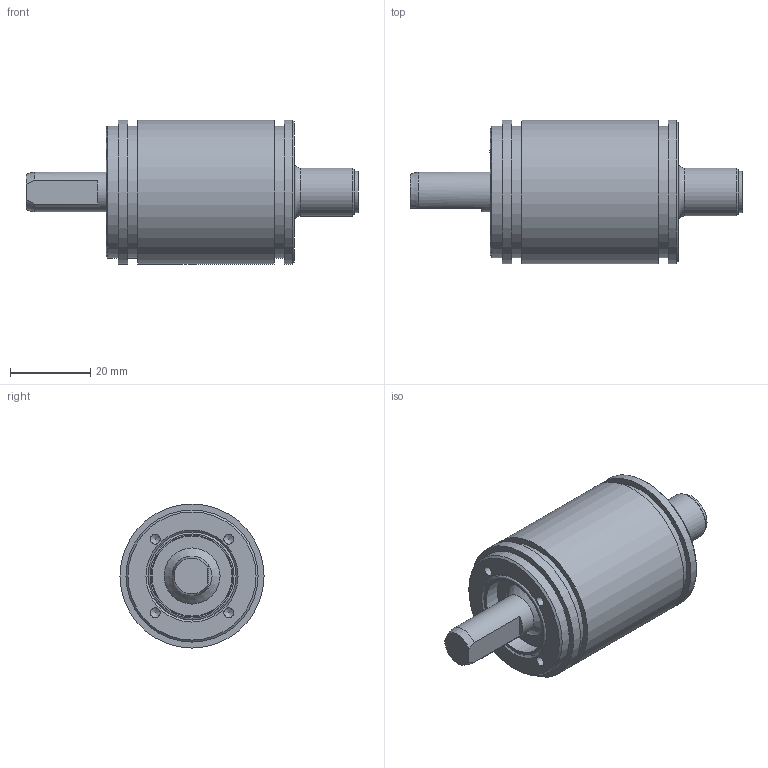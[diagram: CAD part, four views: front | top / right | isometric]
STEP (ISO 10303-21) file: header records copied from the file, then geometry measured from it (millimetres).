
FILE_DESCRIPTION((''),'2;1');
FILE_NAME('K:\Daten\11 Stammdaten Baugruppen\02 Befestigungssätze\00 Allgemein\Bauteil3.stp','2009-02-25T12:06:31',('kamp'),(''),'Autodesk Inventor 2008','Autodesk Inventor 2008','');
FILE_SCHEMA(('AUTOMOTIVE_DESIGN { 1 0 10303 214 1 1 1 1 }'));
Length unit declared in the file: millimetre
Products named in the file (1): Bauteil3
Bounding box: 83 x 36 x 36 mm (x, y, z)
Volume: 48128.2 mm3; surface area: 10139.4 mm2
Topology: 1 solids, 1 shells, 78 faces, 189 edges, 120 vertices
Faces by surface type: plane 31, cylinder 23, bspline 11, cone 6, sphere 5, torus 2
Full cylindrical faces by diameter (mm): 1 x5, 8.3 x1, 10 x1, 10.4 x1, 12 x1, 14 x1, 20 x1, 21 x1, 33 x3, 36 x3
Entity records: 2075 total; most frequent: CARTESIAN_POINT 512, DIRECTION 326, ORIENTED_EDGE 238, AXIS2_PLACEMENT_3D 141, EDGE_LOOP 131, EDGE_CURVE 119, VERTEX_POINT 96, FACE_OUTER_BOUND 78
